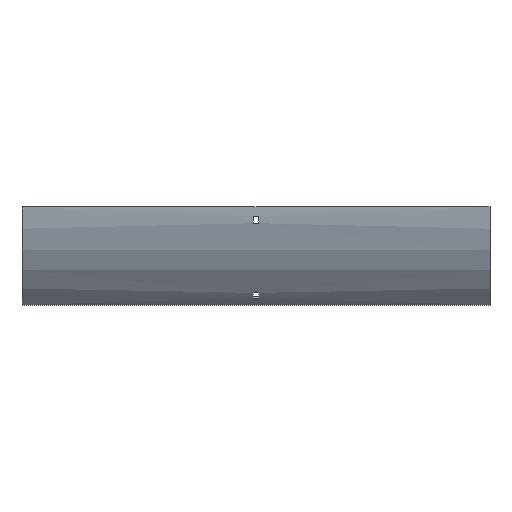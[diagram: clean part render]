
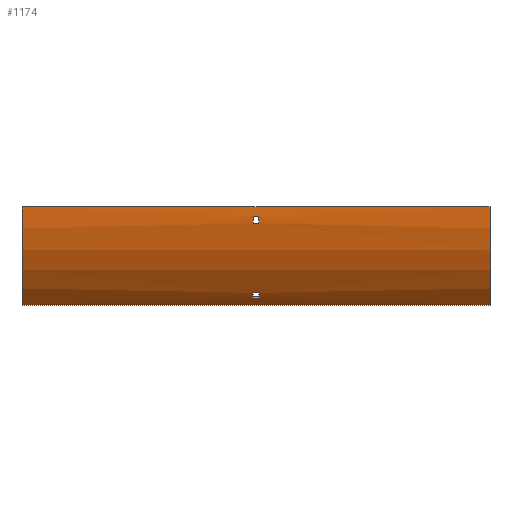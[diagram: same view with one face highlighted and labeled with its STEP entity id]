
A CAD part, front view. The second image highlights one B-rep face of the part: STEP entity #1174.
In plain terms, the highlighted cylindrical face has radius 179 mm (diameter 358 mm), a partial arc.
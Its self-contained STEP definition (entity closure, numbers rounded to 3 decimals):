
#4 = FACE_BOUND ( 'NONE', #1582, .T. ) ;
#6 = EDGE_CURVE ( 'NONE', #1172, #836, #1271, .T. ) ;
#7 = DIRECTION ( 'NONE',  ( -1., 0., 0. ) ) ;
#8 = ORIENTED_EDGE ( 'NONE', *, *, #306, .F. ) ;
#13 = EDGE_LOOP ( 'NONE', ( #1506, #909, #1570, #89 ) ) ;
#31 = CARTESIAN_POINT ( 'NONE',  ( -3.25, -40.547, -110.849 ) ) ;
#48 = CARTESIAN_POINT ( 'NONE',  ( 3.25, 100., 0. ) ) ;
#56 = VECTOR ( 'NONE', #1322, 1000. ) ;
#63 = EDGE_CURVE ( 'NONE', #527, #986, #1011, .T. ) ;
#65 = ORIENTED_EDGE ( 'NONE', *, *, #6, .T. ) ;
#88 = DIRECTION ( 'NONE',  ( -1., 0., 0. ) ) ;
#89 = ORIENTED_EDGE ( 'NONE', *, *, #63, .T. ) ;
#92 = DIRECTION ( 'NONE',  ( 1., 0., 0. ) ) ;
#106 = EDGE_CURVE ( 'NONE', #194, #270, #651, .T. ) ;
#110 = CIRCLE ( 'NONE', #1460, 179. ) ;
#111 = VECTOR ( 'NONE', #1229, 1000. ) ;
#135 = CARTESIAN_POINT ( 'NONE',  ( 302., -40.547, -110.849 ) ) ;
#151 = AXIS2_PLACEMENT_3D ( 'NONE', #405, #931, #692 ) ;
#153 = CIRCLE ( 'NONE', #1281, 179. ) ;
#193 = ORIENTED_EDGE ( 'NONE', *, *, #255, .T. ) ;
#194 = VERTEX_POINT ( 'NONE', #1609 ) ;
#214 = ORIENTED_EDGE ( 'NONE', *, *, #910, .F. ) ;
#255 = EDGE_CURVE ( 'NONE', #1470, #569, #1224, .T. ) ;
#267 = EDGE_CURVE ( 'NONE', #836, #1470, #900, .T. ) ;
#270 = VERTEX_POINT ( 'NONE', #419 ) ;
#306 = EDGE_CURVE ( 'NONE', #1139, #1329, #153, .T. ) ;
#340 = CARTESIAN_POINT ( 'NONE',  ( 3.25, 100., 0. ) ) ;
#343 = AXIS2_PLACEMENT_3D ( 'NONE', #407, #544, #1060 ) ;
#405 = CARTESIAN_POINT ( 'NONE',  ( 302., 100., 0. ) ) ;
#407 = CARTESIAN_POINT ( 'NONE',  ( 302., 100., 0. ) ) ;
#413 = EDGE_LOOP ( 'NONE', ( #65, #607, #193, #1610 ) ) ;
#419 = CARTESIAN_POINT ( 'NONE',  ( -302., -26.572, -126.572 ) ) ;
#435 = FACE_BOUND ( 'NONE', #413, .T. ) ;
#456 = CARTESIAN_POINT ( 'NONE',  ( 302., -77.764, -21. ) ) ;
#481 = DIRECTION ( 'NONE',  ( 1., 0., 0. ) ) ;
#527 = VERTEX_POINT ( 'NONE', #936 ) ;
#544 = DIRECTION ( 'NONE',  ( -1., 0., 0. ) ) ;
#547 = AXIS2_PLACEMENT_3D ( 'NONE', #1532, #481, #1106 ) ;
#555 = CARTESIAN_POINT ( 'NONE',  ( 3.25, -34.773, -117.802 ) ) ;
#565 = LINE ( 'NONE', #135, #56 ) ;
#569 = VERTEX_POINT ( 'NONE', #675 ) ;
#577 = CARTESIAN_POINT ( 'NONE',  ( -3.25, 100., 0. ) ) ;
#588 = DIRECTION ( 'NONE',  ( 0., 0., 1. ) ) ;
#593 = CARTESIAN_POINT ( 'NONE',  ( 302., -34.773, -117.802 ) ) ;
#607 = ORIENTED_EDGE ( 'NONE', *, *, #267, .T. ) ;
#651 = LINE ( 'NONE', #1170, #893 ) ;
#675 = CARTESIAN_POINT ( 'NONE',  ( 3.25, -78.597, -12. ) ) ;
#690 = AXIS2_PLACEMENT_3D ( 'NONE', #1210, #1321, #839 ) ;
#692 = DIRECTION ( 'NONE',  ( 0., 0., -1. ) ) ;
#708 = EDGE_CURVE ( 'NONE', #986, #270, #1066, .T. ) ;
#713 = LINE ( 'NONE', #593, #111 ) ;
#792 = CARTESIAN_POINT ( 'NONE',  ( 3.25, -77.764, -21. ) ) ;
#836 = VERTEX_POINT ( 'NONE', #1042 ) ;
#839 = DIRECTION ( 'NONE',  ( 0., 0., -1. ) ) ;
#882 = DIRECTION ( 'NONE',  ( 0., 0., -1. ) ) ;
#893 = VECTOR ( 'NONE', #1043, 1000. ) ;
#900 = CIRCLE ( 'NONE', #1192, 179. ) ;
#909 = ORIENTED_EDGE ( 'NONE', *, *, #106, .F. ) ;
#910 = EDGE_CURVE ( 'NONE', #1613, #1562, #1455, .T. ) ;
#931 = DIRECTION ( 'NONE',  ( 1., 0., 0. ) ) ;
#936 = CARTESIAN_POINT ( 'NONE',  ( 302., -79., 0. ) ) ;
#937 = CARTESIAN_POINT ( 'NONE',  ( 302., -78.597, -12. ) ) ;
#948 = ORIENTED_EDGE ( 'NONE', *, *, #1090, .F. ) ;
#986 = VERTEX_POINT ( 'NONE', #1075 ) ;
#995 = DIRECTION ( 'NONE',  ( -1., 0., 0. ) ) ;
#1011 = LINE ( 'NONE', #1396, #1566 ) ;
#1042 = CARTESIAN_POINT ( 'NONE',  ( -3.25, -77.764, -21. ) ) ;
#1043 = DIRECTION ( 'NONE',  ( -1., 0., 0. ) ) ;
#1060 = DIRECTION ( 'NONE',  ( 0., 0., 1. ) ) ;
#1064 = CARTESIAN_POINT ( 'NONE',  ( -3.25, -34.773, -117.802 ) ) ;
#1066 = CIRCLE ( 'NONE', #547, 179. ) ;
#1075 = CARTESIAN_POINT ( 'NONE',  ( -302., -79., 0. ) ) ;
#1090 = EDGE_CURVE ( 'NONE', #1562, #1139, #713, .T. ) ;
#1098 = EDGE_CURVE ( 'NONE', #569, #1172, #110, .T. ) ;
#1106 = DIRECTION ( 'NONE',  ( 0., 0., -1. ) ) ;
#1138 = EDGE_CURVE ( 'NONE', #1329, #1613, #565, .T. ) ;
#1139 = VERTEX_POINT ( 'NONE', #555 ) ;
#1142 = CARTESIAN_POINT ( 'NONE',  ( 3.25, -40.547, -110.849 ) ) ;
#1147 = VECTOR ( 'NONE', #1185, 1000. ) ;
#1170 = CARTESIAN_POINT ( 'NONE',  ( 302., -26.572, -126.572 ) ) ;
#1172 = VERTEX_POINT ( 'NONE', #792 ) ;
#1174 = ADVANCED_FACE ( 'NONE', ( #1606, #435, #4 ), #1616, .T. ) ;
#1185 = DIRECTION ( 'NONE',  ( 1., 0., 0. ) ) ;
#1192 = AXIS2_PLACEMENT_3D ( 'NONE', #577, #7, #1457 ) ;
#1210 = CARTESIAN_POINT ( 'NONE',  ( -3.25, 100., 0. ) ) ;
#1224 = LINE ( 'NONE', #937, #1147 ) ;
#1229 = DIRECTION ( 'NONE',  ( 1., 0., 0. ) ) ;
#1271 = LINE ( 'NONE', #456, #1547 ) ;
#1281 = AXIS2_PLACEMENT_3D ( 'NONE', #340, #995, #588 ) ;
#1321 = DIRECTION ( 'NONE',  ( 1., 0., 0. ) ) ;
#1322 = DIRECTION ( 'NONE',  ( -1., 0., 0. ) ) ;
#1329 = VERTEX_POINT ( 'NONE', #1142 ) ;
#1364 = CIRCLE ( 'NONE', #151, 179. ) ;
#1396 = CARTESIAN_POINT ( 'NONE',  ( 302., -79., 0. ) ) ;
#1431 = CARTESIAN_POINT ( 'NONE',  ( -3.25, -78.597, -12. ) ) ;
#1455 = CIRCLE ( 'NONE', #690, 179. ) ;
#1457 = DIRECTION ( 'NONE',  ( 0., 0., 1. ) ) ;
#1460 = AXIS2_PLACEMENT_3D ( 'NONE', #48, #92, #882 ) ;
#1470 = VERTEX_POINT ( 'NONE', #1431 ) ;
#1506 = ORIENTED_EDGE ( 'NONE', *, *, #708, .T. ) ;
#1520 = DIRECTION ( 'NONE',  ( -1., 0., 0. ) ) ;
#1532 = CARTESIAN_POINT ( 'NONE',  ( -302., 100., 0. ) ) ;
#1547 = VECTOR ( 'NONE', #88, 1000. ) ;
#1562 = VERTEX_POINT ( 'NONE', #1064 ) ;
#1566 = VECTOR ( 'NONE', #1520, 1000. ) ;
#1570 = ORIENTED_EDGE ( 'NONE', *, *, #1599, .F. ) ;
#1579 = ORIENTED_EDGE ( 'NONE', *, *, #1138, .F. ) ;
#1582 = EDGE_LOOP ( 'NONE', ( #214, #1579, #8, #948 ) ) ;
#1599 = EDGE_CURVE ( 'NONE', #527, #194, #1364, .T. ) ;
#1606 = FACE_OUTER_BOUND ( 'NONE', #13, .T. ) ;
#1609 = CARTESIAN_POINT ( 'NONE',  ( 302., -26.572, -126.572 ) ) ;
#1610 = ORIENTED_EDGE ( 'NONE', *, *, #1098, .T. ) ;
#1613 = VERTEX_POINT ( 'NONE', #31 ) ;
#1616 = CYLINDRICAL_SURFACE ( 'NONE', #343, 179. ) ;
